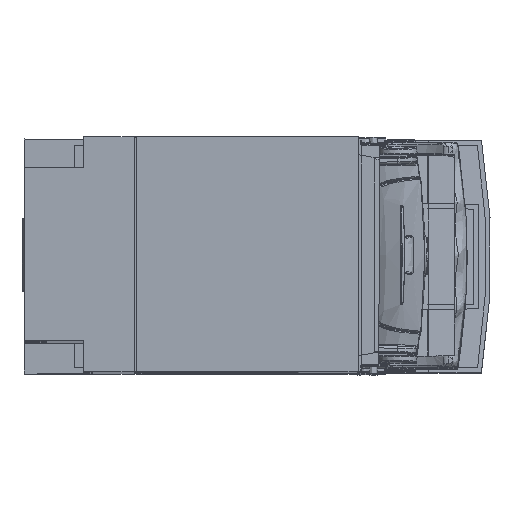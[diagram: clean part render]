
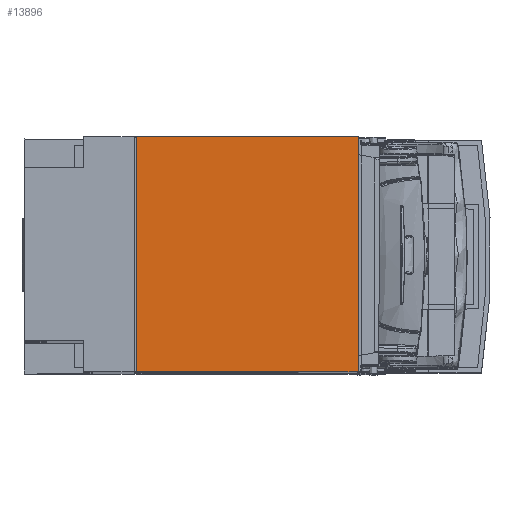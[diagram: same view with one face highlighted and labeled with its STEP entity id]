
A CAD part, top view. The second image highlights one B-rep face of the part: STEP entity #13896.
In plain terms, the highlighted planar face has unit normal (0, 0, 1).
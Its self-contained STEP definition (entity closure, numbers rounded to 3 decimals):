
#13896=ADVANCED_FACE('',(#22684),#20124,.F.);
#20124=PLANE('',#109485);
#22684=FACE_OUTER_BOUND('',#28937,.T.);
#28937=EDGE_LOOP('',(#36841,#36842,#36843,#36844));
#36841=ORIENTED_EDGE('',*,*,#79169,.T.);
#36842=ORIENTED_EDGE('',*,*,#78524,.F.);
#36843=ORIENTED_EDGE('',*,*,#78336,.F.);
#36844=ORIENTED_EDGE('',*,*,#79117,.F.);
#68010=VERTEX_POINT('',#138744);
#68011=VERTEX_POINT('',#138746);
#68193=VERTEX_POINT('',#139218);
#68737=VERTEX_POINT('',#140478);
#78336=EDGE_CURVE('',#68010,#68011,#94517,.T.);
#78524=EDGE_CURVE('',#68011,#68193,#94649,.T.);
#79117=EDGE_CURVE('',#68737,#68010,#95169,.T.);
#79169=EDGE_CURVE('',#68737,#68193,#95220,.T.);
#94517=LINE('',#138745,#101852);
#94649=LINE('',#139217,#101984);
#95169=LINE('',#140479,#102504);
#95220=LINE('',#140581,#102555);
#101852=VECTOR('',#116798,1.);
#101984=VECTOR('',#117030,1.);
#102504=VECTOR('',#117728,1.);
#102555=VECTOR('',#117793,1.);
#109485=AXIS2_PLACEMENT_3D('',#140582,#117794,#117795);
#116798=DIRECTION('',(0.,-1.,0.));
#117030=DIRECTION('',(-1.,0.,0.));
#117728=DIRECTION('',(1.,0.,0.));
#117793=DIRECTION('',(0.,-1.,0.));
#117794=DIRECTION('',(0.,0.,-1.));
#117795=DIRECTION('',(0.,1.,0.));
#138744=CARTESIAN_POINT('',(140.5,49.5,292.));
#138745=CARTESIAN_POINT('',(140.5,49.5,292.));
#138746=CARTESIAN_POINT('',(140.5,-49.5,292.));
#139217=CARTESIAN_POINT('',(152.,-49.5,292.));
#139218=CARTESIAN_POINT('',(47.2,-49.5,292.));
#140478=CARTESIAN_POINT('',(47.2,49.5,292.));
#140479=CARTESIAN_POINT('',(152.,49.5,292.));
#140581=CARTESIAN_POINT('',(47.2,49.3,292.));
#140582=CARTESIAN_POINT('',(152.,49.5,292.));
